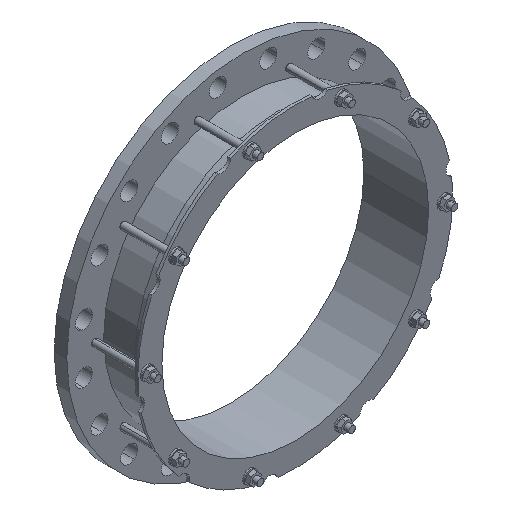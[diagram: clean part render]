
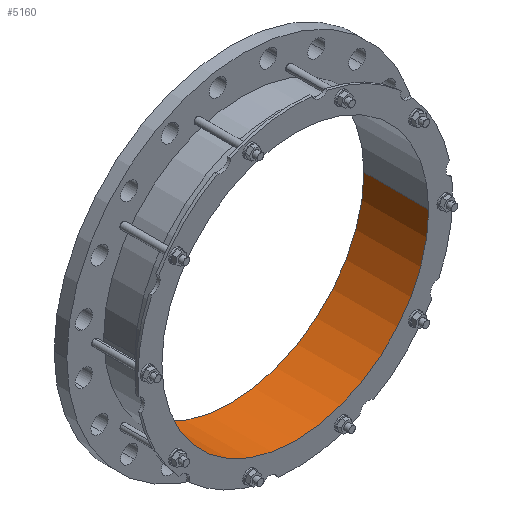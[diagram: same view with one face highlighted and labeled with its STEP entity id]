
A CAD part, isometric view. The second image highlights one B-rep face of the part: STEP entity #5160.
In plain terms, the highlighted cylindrical face has radius 242 mm (diameter 484 mm), a partial arc.
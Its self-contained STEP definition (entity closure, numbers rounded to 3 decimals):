
#7=CARTESIAN_POINT('',(0.,23.,0.));
#8=DIRECTION('',(0.,1.,0.));
#9=DIRECTION('',(1.,0.,0.));
#10=AXIS2_PLACEMENT_3D('',#7,#8,#9);
#1899=CARTESIAN_POINT('',(0.,-94.452,0.));
#1900=DIRECTION('',(0.,1.,0.));
#1901=DIRECTION('',(1.,0.,0.));
#1902=AXIS2_PLACEMENT_3D('',#1899,#1900,#1901);
#1904=DIRECTION('',(0.,1.,0.));
#1905=VECTOR('',#1904,117.452);
#1906=CARTESIAN_POINT('',(242.,-94.452,0.));
#1907=LINE('',#1906,#1905);
#1908=DIRECTION('',(0.,1.,0.));
#1909=VECTOR('',#1908,117.452);
#1910=CARTESIAN_POINT('',(-242.,-94.452,0.));
#1911=LINE('',#1910,#1909);
#3432=CARTESIAN_POINT('',(242.,-94.452,0.));
#3433=CARTESIAN_POINT('',(242.,23.,0.));
#3434=VERTEX_POINT('',#3432);
#3435=VERTEX_POINT('',#3433);
#3440=CARTESIAN_POINT('',(-242.,-94.452,0.));
#3441=CARTESIAN_POINT('',(-242.,23.,0.));
#3442=VERTEX_POINT('',#3440);
#3443=VERTEX_POINT('',#3441);
#5147=CARTESIAN_POINT('',(0.,-100.325,0.));
#5148=DIRECTION('',(0.,1.,0.));
#5149=DIRECTION('',(-1.,0.,0.));
#5150=AXIS2_PLACEMENT_3D('',#5147,#5148,#5149);
#5151=CYLINDRICAL_SURFACE('',#5150,242.);
#5153=ORIENTED_EDGE('',*,*,#5152,.F.);
#5154=ORIENTED_EDGE('',*,*,#5140,.T.);
#5156=ORIENTED_EDGE('',*,*,#5155,.T.);
#5157=ORIENTED_EDGE('',*,*,#4209,.F.);
#5158=EDGE_LOOP('',(#5153,#5154,#5156,#5157));
#5159=FACE_OUTER_BOUND('',#5158,.F.);
#5160=ADVANCED_FACE('',(#5159),#5151,.F.);
#11=CIRCLE('',#10,242.);
#1903=CIRCLE('',#1902,242.);
#4209=EDGE_CURVE('',#3435,#3443,#11,.T.);
#5140=EDGE_CURVE('',#3434,#3442,#1903,.T.);
#5152=EDGE_CURVE('',#3434,#3435,#1907,.T.);
#5155=EDGE_CURVE('',#3442,#3443,#1911,.T.);
